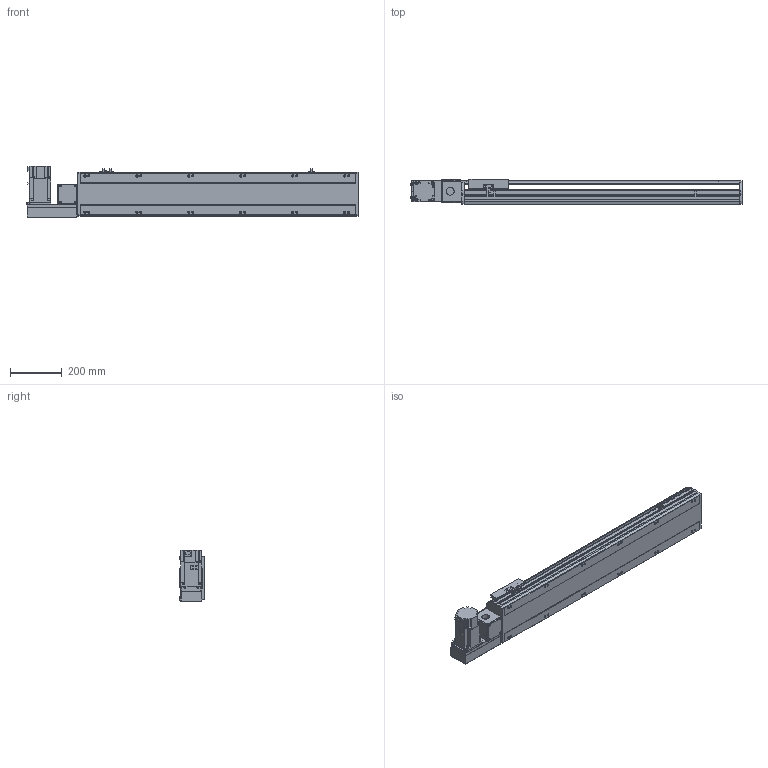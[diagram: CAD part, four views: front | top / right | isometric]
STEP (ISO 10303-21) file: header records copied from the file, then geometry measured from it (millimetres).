
FILE_DESCRIPTION( ( 'STEP AP214' ), '1' );
FILE_NAME( 'x:/temp/worker_3/temp/exporttempdir_5796_98_Ez0oS/format_0/PBS170-P40-S800-L-T75-C1-N(0).stp', '2022-06-07T06:54:38', ( 'License CC BY-ND 4.0' ), ( 'CADENAS' ), ' ', 'PARTsolutions', ' ' );
FILE_SCHEMA( ( 'AUTOMOTIVE_DESIGN { 1 0 10303 214 1 1 1 1 }' ) );
Length unit declared in the file: millimetre
Products named in the file (7): PBS170-P40-S800-L-T75-C1-N(0); _PBS170-S800()_body; _PBS170T-L_motors; _T75-p1; _PBS170_sliser; _PBS170_plant; _PBS170_sensor
Assembly tree (8 placements, depth 2):
  PBS170-P40-S800-L-T75-C1-N(0)
    _PBS170-S800()_body
    _PBS170T-L_motors
    _T75-p1
    _PBS170_sliser
    _PBS170_plant
    _PBS170_sensor  x3
Bounding box: 1278 x 97 x 197.3 mm (x, y, z)
Volume: 9567605.9 mm3; surface area: 1267361.5 mm2
Topology: 8 solids, 8 shells, 1050 faces, 2795 edges, 1822 vertices
Faces by surface type: plane 675, cylinder 323, cone 42, sphere 8, torus 2
Full cylindrical faces by diameter (mm): 3.242 x4, 4 x2, 4.4 x4, 4.5 x6, 4.917 x4, 6 x9, 6.647 x20, 7 x2, 7.5 x4, 8 x8, 8.5 x12, 10 x4, 10.5 x12, 11 x2, 30 x2, 40 x1, 70 x1
Entity records: 38456 total; most frequent: CARTESIAN_POINT 5885, DIRECTION 5160, ORIENTED_EDGE 4908, EDGE_CURVE 2454, AXIS2_PLACEMENT_3D 1777, VERTEX_POINT 1682, LINE 1606, VECTOR 1606
